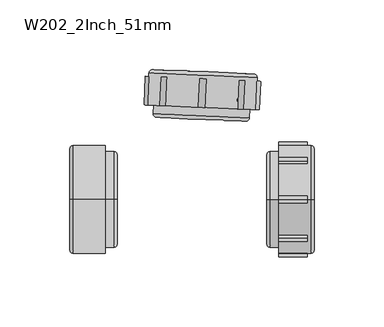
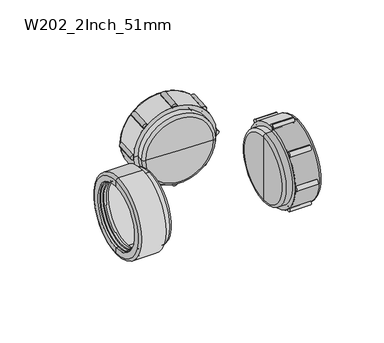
"""IFC4 building model written with IfcOpenShell, lengths in millimetres: pipe fitting geometry, Durapipe_PipeFitting_VulcatheneMechanical_92.5EqualSweepTee_W20 : W202_2Inch_51mm."""

from ifc_helpers import new_model, si_unit, point, frame, frame_2d, origin, place, context, project, spatial, polyline, circle_curve, ellipse_curve, trimmed, segment, composite_curve, outline, extrude, source, transform, mapped, element, save
from ifc_brep_helpers import plane_surface, cylinder_surface, revolved_surface, advanced_brep


def w202_2inch_51mm_4147cbe4(model_context):
    return source(origin(), model_context, "Body", "SolidModel", [
        advanced_brep(
        [(-18.9253574, 90.1480892, 22.839549), (26.7102643, 88.155595, -22.839549), (25.15611, 88.2234508, -21.2839141), (-17.3712031, 90.0802334, 21.2839141), (-18.6751223, 84.5318287, 22.3445743), (25.9714921, 82.5825154, -22.3445743), (-18.3123292, 83.114655, 21.9203102), (25.4865647, 81.202354, -21.9203102), (25.5476319, 82.6010215, -21.9203102), (-18.251262, 84.5133225, 21.9203102), (-17.3233219, 83.071474, 20.9303607), (24.4975574, 81.245535, -20.9303607), (-17.2229973, 85.369285, 20.9303607), (24.597882, 83.5433459, -20.9303607), (-16.9404238, 85.3569475, 20.647518), (24.3153085, 83.5556834, -20.647518), (-17.4802515, 87.5826128, 21.2839141), (25.0470616, 85.7258302, -21.2839141), (24.4112712, 85.7535894, -20.647518), (-16.8444611, 87.5548536, 20.647518)],
        [
            (0, 1, circle_curve(frame((3.8924535, 89.1518421, 0.0), z_axis=(0.04361938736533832, 0.9990482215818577, 0.0), x_axis=(0.7064337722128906, -0.030843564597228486, -0.7071067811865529)), 32.3)),
            (1, 2),
            (2, 3, circle_curve(frame((3.8924535, 89.1518421, 0.0), z_axis=(-0.04361938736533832, -0.9990482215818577, 0.0), x_axis=(0.7064337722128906, -0.030843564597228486, -0.7071067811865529)), 30.1)),
            (3, 0),
            (1, 0, circle_curve(frame((3.8924535, 89.1518421, 0.0), z_axis=(0.04361938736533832, 0.9990482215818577, 0.0), x_axis=(0.7064337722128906, -0.030843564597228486, -0.7071067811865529)), 32.3)),
            (3, 2, circle_curve(frame((3.8924535, 89.1518421, 0.0), z_axis=(-0.04361938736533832, -0.9990482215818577, 0.0), x_axis=(0.7064337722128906, -0.030843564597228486, -0.7071067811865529)), 30.1)),
            (4, 5, circle_curve(frame((3.6481849, 83.557172, 0.0), z_axis=(0.04361938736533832, 0.9990482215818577, 0.0), x_axis=(0.7064337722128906, -0.030843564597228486, -0.7071067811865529)), 31.6)),
            (5, 1),
            (0, 4),
            (5, 4, circle_curve(frame((3.6481849, 83.557172, 0.0), z_axis=(0.04361938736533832, 0.9990482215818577, 0.0), x_axis=(0.7064337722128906, -0.030843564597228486, -0.7071067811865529)), 31.6)),
            (6, 7, circle_curve(frame((3.5871178, 82.1585045, 0.0), z_axis=(0.04361938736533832, 0.9990482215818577, 0.0), x_axis=(0.7064337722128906, -0.030843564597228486, -0.7071067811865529)), 31.0)),
            (7, 8),
            (8, 9, circle_curve(frame((3.6481849, 83.557172, 0.0), z_axis=(-0.04361938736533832, -0.9990482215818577, 0.0), x_axis=(0.7064337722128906, -0.030843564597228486, -0.7071067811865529)), 31.0)),
            (9, 6),
            (7, 6, circle_curve(frame((3.5871178, 82.1585045, 0.0), z_axis=(0.04361938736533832, 0.9990482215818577, 0.0), x_axis=(0.7064337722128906, -0.030843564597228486, -0.7071067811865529)), 31.0)),
            (9, 8, circle_curve(frame((3.6481849, 83.557172, 0.0), z_axis=(-0.04361938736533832, -0.9990482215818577, 0.0), x_axis=(0.7064337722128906, -0.030843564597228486, -0.7071067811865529)), 31.0)),
            (6, 10),
            (10, 11, circle_curve(frame((3.5871178, 82.1585045, 0.0), z_axis=(0.04361938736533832, 0.9990482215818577, 0.0), x_axis=(0.7064337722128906, -0.030843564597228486, -0.7071067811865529)), 29.6)),
            (11, 7),
            (11, 10, circle_curve(frame((3.5871178, 82.1585045, 0.0), z_axis=(0.04361938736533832, 0.9990482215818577, 0.0), x_axis=(0.7064337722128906, -0.030843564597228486, -0.7071067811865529)), 29.6)),
            (10, 12),
            (12, 13, circle_curve(frame((3.6874424, 84.4563154, 0.0), z_axis=(0.04361938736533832, 0.9990482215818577, 0.0), x_axis=(0.7064337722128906, -0.030843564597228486, -0.7071067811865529)), 29.6)),
            (13, 11),
            (13, 12, circle_curve(frame((3.6874424, 84.4563154, 0.0), z_axis=(0.04361938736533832, 0.9990482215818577, 0.0), x_axis=(0.7064337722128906, -0.030843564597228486, -0.7071067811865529)), 29.6)),
            (12, 14),
            (14, 15, circle_curve(frame((3.6874424, 84.4563154, 0.0), z_axis=(0.04361938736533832, 0.9990482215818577, 0.0), x_axis=(0.7064337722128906, -0.030843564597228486, -0.7071067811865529)), 29.2)),
            (15, 13),
            (15, 14, circle_curve(frame((3.6874424, 84.4563154, 0.0), z_axis=(0.04361938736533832, 0.9990482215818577, 0.0), x_axis=(0.7064337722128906, -0.030843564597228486, -0.7071067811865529)), 29.2)),
            (16, 17, circle_curve(frame((3.783405, 86.6542215, 0.0), z_axis=(0.04361938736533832, 0.9990482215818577, 0.0), x_axis=(0.7064337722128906, -0.030843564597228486, -0.7071067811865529)), 30.1)),
            (17, 18),
            (18, 19, circle_curve(frame((3.783405, 86.6542215, 0.0), z_axis=(-0.04361938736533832, -0.9990482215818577, 0.0), x_axis=(0.7064337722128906, -0.030843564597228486, -0.7071067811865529)), 29.2)),
            (19, 16),
            (17, 16, circle_curve(frame((3.783405, 86.6542215, 0.0), z_axis=(0.04361938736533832, 0.9990482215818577, 0.0), x_axis=(0.7064337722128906, -0.030843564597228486, -0.7071067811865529)), 30.1)),
            (19, 18, circle_curve(frame((3.783405, 86.6542215, 0.0), z_axis=(-0.04361938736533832, -0.9990482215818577, 0.0), x_axis=(0.7064337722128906, -0.030843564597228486, -0.7071067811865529)), 29.2)),
            (2, 17),
            (16, 3),
            (14, 19),
            (18, 15),
            (4, 9),
            (8, 5),
        ],
        [
            plane_surface(frame((3.8924535, 89.1518421, 0.0), z_axis=(0.043619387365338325, 0.9990482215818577, 0.0), x_axis=(0.7064337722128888, -0.03084356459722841, -0.7071067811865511))),
            revolved_surface(polyline([(26.7102643, 88.155595, -22.839549), (25.9714921, 82.5825154, -22.3445743)]), (4.1105504, 94.1470832, 0.0), (-0.04361938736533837, -0.999048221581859, 0.0)),
            cylinder_surface(frame((3.496797, 80.0898196, 0.0), z_axis=(-0.04361938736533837, -0.999048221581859, 0.0), x_axis=(0.7064337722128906, -0.030843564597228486, -0.7071067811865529)), 31.0),
            plane_surface(frame((3.5871178, 82.1585045, 0.0), z_axis=(-0.043619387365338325, -0.9990482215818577, 0.0), x_axis=(0.7064337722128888, -0.03084356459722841, -0.7071067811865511))),
            revolved_surface(polyline([(24.497557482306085, 81.24553497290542, -20.930360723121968), (24.597882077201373, 83.54334597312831, -20.930360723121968)]), (3.4347557, 78.6688381, 0.0), (-0.04361938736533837, -0.999048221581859, 0.0)),
            plane_surface(frame((3.6874424, 84.4563154, 0.0), z_axis=(-0.043619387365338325, -0.9990482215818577, 0.0), x_axis=(0.7064337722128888, -0.03084356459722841, -0.7071067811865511))),
            plane_surface(frame((3.783405, 86.6542215, 0.0), z_axis=(0.043619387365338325, 0.9990482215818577, 0.0), x_axis=(0.7064337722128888, -0.03084356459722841, -0.7071067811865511))),
            revolved_surface(polyline([(25.047061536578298, 85.72583020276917, -21.283914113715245), (25.15611000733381, 88.22345081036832, -21.283914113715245)]), (4.1105504, 94.1470832, 0.0), (-0.04361938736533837, -0.999048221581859, 0.0)),
            revolved_surface(polyline([(24.315308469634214, 83.55568331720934, -20.647518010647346), (24.411271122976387, 85.75358943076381, -20.647518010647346)]), (3.9607698, 90.7165439, 0.0), (-0.04361938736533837, -0.999048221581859, 0.0)),
            plane_surface(frame((3.6481849, 83.557172, 0.0), z_axis=(-0.043619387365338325, -0.9990482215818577, 0.0), x_axis=(0.7064337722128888, -0.03084356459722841, -0.7071067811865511))),
        ],
        [
            (0, [[1, 2, 3, 4]]),
            (0, [[-2, 5, -4, 6]]),
            (1, [[7, 8, -1, 9]]),
            (1, [[10, -9, -5, -8]]),
            (2, [[11, 12, 13, 14]]),
            (2, [[-12, 15, -14, 16]]),
            (3, [[-11, 17, 18, 19]]),
            (3, [[-15, -19, 20, -17]]),
            (4, [[21, 22, 23, -18]]),
            (4, [[-21, -20, -23, 24]]),
            (5, [[-22, 25, 26, 27]]),
            (5, [[-24, -27, 28, -25]]),
            (6, [[29, 30, 31, 32]]),
            (6, [[33, -32, 34, -30]]),
            (7, [[-3, 35, -29, 36]]),
            (7, [[-6, -36, -33, -35]]),
            (8, [[37, -31, 38, -26]]),
            (8, [[-37, -28, -38, -34]]),
            (9, [[-7, 39, -13, 40]]),
            (9, [[-10, -40, -16, -39]]),
        ],
    ),
        advanced_brep(
        [(-35.8782254, 67.7662604, 0.0), (41.6479166, 64.3813959, 0.0), (42.6468006, 87.2596002, 0.0), (-34.8793414, 90.6444647, 0.0), (-31.582318, 67.578697, 0.0), (37.3520093, 64.5689593, 0.0), (-32.2726724, 93.0330368, 0.0), (40.2582285, 89.8662692, 0.0), (34.9632729, 90.097452, 0.0), (-26.9777168, 92.801854, 0.0), (-29.0761378, 90.5912819, 0.0), (36.8610448, 87.7124023, 0.0), (35.6702355, 60.4383859, 0.0), (-30.2669471, 63.3172654, 0.0), (-27.0780414, 90.5040431, 0.0), (34.8629484, 87.7996411, 0.0), (-31.8440343, 61.5844077, 0.0), (37.090293, 58.57467, 0.0), (-29.4554622, 58.9777387, 0.0), (34.4836239, 56.1860979, 0.0), (2.5140808, 57.5819183, 0.0), (2.7016442, 61.8778256, 0.0)],
        [
            (0, 1, circle_curve(frame((2.8848456, 66.0738282, 0.0), z_axis=(0.04361938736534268, 0.9990482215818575, 0.0), x_axis=(0.9990482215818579, -0.0436193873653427, 0.0)), 38.8)),
            (1, 2),
            (2, 3, circle_curve(frame((3.8837296, 88.9520324, 0.0), z_axis=(-0.04361938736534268, -0.9990482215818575, 0.0), x_axis=(0.9990482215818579, -0.0436193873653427, 0.0)), 38.8)),
            (3, 0),
            (1, 0, circle_curve(frame((2.8848456, 66.0738282, 0.0), z_axis=(0.04361938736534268, 0.9990482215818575, 0.0), x_axis=(0.9990482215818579, -0.0436193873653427, 0.0)), 38.8)),
            (3, 2, circle_curve(frame((3.8837296, 88.9520324, 0.0), z_axis=(-0.04361938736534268, -0.9990482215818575, 0.0), x_axis=(0.9990482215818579, -0.0436193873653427, 0.0)), 38.8)),
            (4, 5, circle_curve(frame((2.8848456, 66.0738282, 0.0), z_axis=(0.04361938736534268, 0.9990482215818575, 0.0), x_axis=(0.9990482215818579, -0.0436193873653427, 0.0)), 34.5)),
            (5, 1),
            (0, 4),
            (5, 4, circle_curve(frame((2.8848456, 66.0738282, 0.0), z_axis=(0.04361938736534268, 0.9990482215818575, 0.0), x_axis=(0.9990482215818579, -0.0436193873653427, 0.0)), 34.5)),
            (6, 7, circle_curve(frame((3.9927781, 91.449653, 0.0), z_axis=(0.04361938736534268, 0.9990482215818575, 0.0), x_axis=(0.9990482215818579, -0.0436193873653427, 0.0)), 36.3)),
            (7, 8),
            (8, 9, circle_curve(frame((3.9927781, 91.449653, 0.0), z_axis=(-0.04361938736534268, -0.9990482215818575, 0.0), x_axis=(0.9990482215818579, -0.0436193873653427, 0.0)), 31.0)),
            (9, 6),
            (7, 6, circle_curve(frame((3.9927781, 91.449653, 0.0), z_axis=(0.04361938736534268, 0.9990482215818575, 0.0), x_axis=(0.9990482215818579, -0.0436193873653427, 0.0)), 36.3)),
            (9, 8, circle_curve(frame((3.9927781, 91.449653, 0.0), z_axis=(-0.04361938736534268, -0.9990482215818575, 0.0), x_axis=(0.9990482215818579, -0.0436193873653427, 0.0)), 31.0)),
            (2, 7, circle_curve(frame((40.1491801, 87.3686487, 0.0), z_axis=(0.0, 0.0, 1.0000000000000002), x_axis=(0.04361938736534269, 0.9990482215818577, 0.0)), 2.5)),
            (6, 3, circle_curve(frame((-32.3817208, 90.5354162, 0.0), z_axis=(0.0, 0.0, 1.0000000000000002), x_axis=(0.04361938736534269, 0.9990482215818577, 0.0)), 2.5)),
            (10, 11, circle_curve(frame((3.8924535, 89.1518421, 0.0), z_axis=(0.04361938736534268, 0.9990482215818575, 0.0), x_axis=(0.9990482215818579, -0.0436193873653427, 0.0)), 33.0)),
            (11, 12),
            (12, 13, circle_curve(frame((2.7016442, 61.8778256, 0.0), z_axis=(-0.04361938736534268, -0.9990482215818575, 0.0), x_axis=(0.9990482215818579, -0.0436193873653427, 0.0)), 33.0)),
            (13, 10),
            (11, 10, circle_curve(frame((3.8924535, 89.1518421, 0.0), z_axis=(0.04361938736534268, 0.9990482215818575, 0.0), x_axis=(0.9990482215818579, -0.0436193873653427, 0.0)), 33.0)),
            (13, 12, circle_curve(frame((2.7016442, 61.8778256, 0.0), z_axis=(-0.04361938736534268, -0.9990482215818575, 0.0), x_axis=(0.9990482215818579, -0.0436193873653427, 0.0)), 33.0)),
            (14, 15, circle_curve(frame((3.8924535, 89.1518421, 0.0), z_axis=(0.04361938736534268, 0.9990482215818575, 0.0), x_axis=(0.9990482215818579, -0.0436193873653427, 0.0)), 31.0)),
            (15, 11),
            (10, 14),
            (15, 14, circle_curve(frame((3.8924535, 89.1518421, 0.0), z_axis=(0.04361938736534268, 0.9990482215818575, 0.0), x_axis=(0.9990482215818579, -0.0436193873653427, 0.0)), 31.0)),
            (8, 15),
            (14, 9),
            (16, 17, circle_curve(frame((2.6231293, 60.0795388, 0.0), z_axis=(0.04361938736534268, 0.9990482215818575, 0.0), x_axis=(0.9990482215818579, -0.0436193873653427, 0.0)), 34.5)),
            (17, 5),
            (4, 16),
            (17, 16, circle_curve(frame((2.6231293, 60.0795388, 0.0), z_axis=(0.04361938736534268, 0.9990482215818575, 0.0), x_axis=(0.9990482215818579, -0.0436193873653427, 0.0)), 34.5)),
            (18, 19, circle_curve(frame((2.5140808, 57.5819183, 0.0), z_axis=(0.04361938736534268, 0.9990482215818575, 0.0), x_axis=(0.9990482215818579, -0.0436193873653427, 0.0)), 32.0)),
            (19, 17, circle_curve(frame((34.5926724, 58.6837184, 0.0), z_axis=(0.0, 0.0, 1.0000000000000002), x_axis=(0.04361938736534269, 0.9990482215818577, 0.0)), 2.5)),
            (16, 18, circle_curve(frame((-29.3464138, 61.4753592, 0.0), z_axis=(0.0, 0.0, 1.0000000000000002), x_axis=(0.04361938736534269, 0.9990482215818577, 0.0)), 2.5)),
            (19, 18, circle_curve(frame((2.5140808, 57.5819183, 0.0), z_axis=(0.04361938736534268, 0.9990482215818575, 0.0), x_axis=(0.9990482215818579, -0.0436193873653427, 0.0)), 32.0)),
            (20, 19),
            (18, 20),
            (12, 21),
            (21, 13),
        ],
        [
            cylinder_surface(frame((72.0739972, 1650.7659339, 0.0), z_axis=(-0.04361938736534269, -0.9990482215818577, 0.0), x_axis=(0.9990482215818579, -0.0436193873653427, 0.0)), 38.8),
            plane_surface(frame((2.8848456, 66.0738282, 0.0), z_axis=(-0.04361938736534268, -0.9990482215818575, 0.0), x_axis=(0.9990482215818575, -0.04361938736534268, 0.0))),
            plane_surface(frame((3.9927781, 91.449653, 0.0), z_axis=(0.04361938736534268, 0.9990482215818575, 0.0), x_axis=(0.9990482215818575, -0.04361938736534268, 0.0))),
            revolved_surface(trimmed(ellipse_curve(frame((40.1491801, 87.3686487, 0.0), z_axis=(0.0, 0.0, -1.0000000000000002), x_axis=(0.04361938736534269, 0.9990482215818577, 0.0)), 2.5, 2.5), [point((40.2582285, 89.8662692, 0.0))], [point((42.6468006, 87.2596002, 0.0))], True, "CARTESIAN"), (72.0739972, 1650.7659339, 0.0), (-0.04361938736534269, -0.9990482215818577, 0.0)),
            revolved_surface(polyline([(35.670235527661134, 60.43838581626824, 0.0), (36.861044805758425, 87.71240233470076, 0.0)]), (72.0739972, 1650.7659339, 0.0), (-0.04361938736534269, -0.9990482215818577, 0.0)),
            plane_surface(frame((3.8924535, 89.1518421, 0.0), z_axis=(-0.04361938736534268, -0.9990482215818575, 0.0), x_axis=(0.9990482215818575, -0.04361938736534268, 0.0))),
            revolved_surface(polyline([(34.8629483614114, 87.79964108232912, 0.0), (34.96327295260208, 90.09745199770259, 0.0)]), (72.0739972, 1650.7659339, 0.0), (-0.04361938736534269, -0.9990482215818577, 0.0)),
            cylinder_surface(frame((72.0739972, 1650.7659339, 0.0), z_axis=(-0.04361938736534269, -0.9990482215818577, 0.0), x_axis=(0.9990482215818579, -0.0436193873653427, 0.0)), 34.5),
            revolved_surface(trimmed(ellipse_curve(frame((34.5926724, 58.6837184, 0.0), z_axis=(0.0, 0.0, -1.0000000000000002), x_axis=(0.04361938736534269, 0.9990482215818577, 0.0)), 2.5, 2.5), [point((37.090293, 58.57467, 0.0))], [point((34.4836239, 56.1860979, 0.0))], True, "CARTESIAN"), (72.0739972, 1650.7659339, 0.0), (-0.04361938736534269, -0.9990482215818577, 0.0)),
            plane_surface(frame((2.5140808, 57.5819183, 0.0), z_axis=(-0.04361938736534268, -0.9990482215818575, 0.0), x_axis=(0.9990482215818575, -0.04361938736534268, 0.0))),
            plane_surface(frame((2.7016442, 61.8778256, 0.0), z_axis=(0.04361938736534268, 0.9990482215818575, 0.0), x_axis=(0.9990482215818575, -0.04361938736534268, 0.0))),
        ],
        [
            (0, [[1, 2, 3, 4]]),
            (0, [[5, -4, 6, -2]]),
            (1, [[7, 8, -1, 9]]),
            (1, [[10, -9, -5, -8]]),
            (2, [[11, 12, 13, 14]]),
            (2, [[15, -14, 16, -12]]),
            (3, [[-3, 17, -11, 18]]),
            (3, [[-6, -18, -15, -17]]),
            (4, [[19, 20, 21, 22]]),
            (4, [[23, -22, 24, -20]]),
            (5, [[25, 26, -19, 27]]),
            (5, [[28, -27, -23, -26]]),
            (6, [[-13, 29, -25, 30]]),
            (6, [[-16, -30, -28, -29]]),
            (7, [[31, 32, -7, 33]]),
            (7, [[34, -33, -10, -32]]),
            (8, [[35, 36, -31, 37]]),
            (8, [[38, -37, -34, -36]]),
            (9, [[39, -35, 40]]),
            (9, [[-40, -38, -39]]),
            (10, [[-21, 41, 42]]),
            (10, [[-24, -42, -41]]),
        ],
    ),
        extrude(outline(composite_curve([segment(trimmed(circle_curve(frame_2d((0.0, -2.5)), 2.5), [point((0.0, -5.0))], [point((0.0, 0.0))], False, "CARTESIAN"), True, "CONTINUOUS"), segment(trimmed(circle_curve(frame_2d((0.0, -2.5)), 2.5), [point((0.0, 0.0))], [point((0.0, -5.0))], False, "CARTESIAN"), True, "CONTINUOUS")], self_intersect=False)), frame((5.3824662, 65.9647797, -38.8), z_axis=(0.04361938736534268, 0.9990482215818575, 0.0), x_axis=(0.0, 0.0, 1.0)), (0.0, 0.0, 1.0), 20.4),
        extrude(outline(composite_curve([segment(trimmed(circle_curve(frame_2d((11.3642569, 24.9357431)), 2.5), [point((11.3642569, 22.4357431))], [point((11.3642569, 27.4357431))], False, "CARTESIAN"), True, "CONTINUOUS"), segment(trimmed(circle_curve(frame_2d((11.3642569, 24.9357431)), 2.5), [point((11.3642569, 27.4357431))], [point((11.3642569, 22.4357431))], False, "CARTESIAN"), True, "CONTINUOUS")], self_intersect=False)), frame((5.3824662, 65.9647797, -38.8), z_axis=(0.04361938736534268, 0.9990482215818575, 0.0), x_axis=(0.0, 0.0, 1.0)), (0.0, 0.0, 1.0), 20.4),
        extrude(outline(composite_curve([segment(trimmed(circle_curve(frame_2d((38.8, 36.3)), 2.5), [point((38.8, 33.8))], [point((38.8, 38.8))], False, "CARTESIAN"), True, "CONTINUOUS"), segment(trimmed(circle_curve(frame_2d((38.8, 36.3)), 2.5), [point((38.8, 38.8))], [point((38.8, 33.8))], False, "CARTESIAN"), True, "CONTINUOUS")], self_intersect=False)), frame((5.3824662, 65.9647797, -38.8), z_axis=(0.04361938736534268, 0.9990482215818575, 0.0), x_axis=(0.0, 0.0, 1.0)), (0.0, 0.0, 1.0), 20.4),
        extrude(outline(composite_curve([segment(trimmed(circle_curve(frame_2d((66.2357431, 24.9357431)), 2.5), [point((66.2357431, 22.4357431))], [point((66.2357431, 27.4357431))], False, "CARTESIAN"), True, "CONTINUOUS"), segment(trimmed(circle_curve(frame_2d((66.2357431, 24.9357431)), 2.5), [point((66.2357431, 27.4357431))], [point((66.2357431, 22.4357431))], False, "CARTESIAN"), True, "CONTINUOUS")], self_intersect=False)), frame((5.3824662, 65.9647797, -38.8), z_axis=(0.04361938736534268, 0.9990482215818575, 0.0), x_axis=(0.0, 0.0, 1.0)), (0.0, 0.0, 1.0), 20.4),
        extrude(outline(composite_curve([segment(trimmed(circle_curve(frame_2d((77.6, -2.5)), 2.5), [point((77.6, -5.0))], [point((77.6, 0.0))], False, "CARTESIAN"), True, "CONTINUOUS"), segment(trimmed(circle_curve(frame_2d((77.6, -2.5)), 2.5), [point((77.6, 0.0))], [point((77.6, -5.0))], False, "CARTESIAN"), True, "CONTINUOUS")], self_intersect=False)), frame((5.3824662, 65.9647797, -38.8), z_axis=(0.04361938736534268, 0.9990482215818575, 0.0), x_axis=(0.0, 0.0, 1.0)), (0.0, 0.0, 1.0), 20.4),
        extrude(outline(composite_curve([segment(trimmed(circle_curve(frame_2d((66.2357431, -29.9357431)), 2.5), [point((66.2357431, -32.4357431))], [point((66.2357431, -27.4357431))], False, "CARTESIAN"), True, "CONTINUOUS"), segment(trimmed(circle_curve(frame_2d((66.2357431, -29.9357431)), 2.5), [point((66.2357431, -27.4357431))], [point((66.2357431, -32.4357431))], False, "CARTESIAN"), True, "CONTINUOUS")], self_intersect=False)), frame((5.3824662, 65.9647797, -38.8), z_axis=(0.04361938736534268, 0.9990482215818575, 0.0), x_axis=(0.0, 0.0, 1.0)), (0.0, 0.0, 1.0), 20.4),
        extrude(outline(composite_curve([segment(trimmed(circle_curve(frame_2d((38.8, -41.3)), 2.5), [point((38.8, -43.8))], [point((38.8, -38.8))], False, "CARTESIAN"), True, "CONTINUOUS"), segment(trimmed(circle_curve(frame_2d((38.8, -41.3)), 2.5), [point((38.8, -38.8))], [point((38.8, -43.8))], False, "CARTESIAN"), True, "CONTINUOUS")], self_intersect=False)), frame((5.3824662, 65.9647797, -38.8), z_axis=(0.04361938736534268, 0.9990482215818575, 0.0), x_axis=(0.0, 0.0, 1.0)), (0.0, 0.0, 1.0), 20.4),
        extrude(outline(composite_curve([segment(trimmed(circle_curve(frame_2d((11.3642569, -29.9357431)), 2.5), [point((11.3642569, -32.4357431))], [point((11.3642569, -27.4357431))], False, "CARTESIAN"), True, "CONTINUOUS"), segment(trimmed(circle_curve(frame_2d((11.3642569, -29.9357431)), 2.5), [point((11.3642569, -27.4357431))], [point((11.3642569, -32.4357431))], False, "CARTESIAN"), True, "CONTINUOUS")], self_intersect=False)), frame((5.3824662, 65.9647797, -38.8), z_axis=(0.04361938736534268, 0.9990482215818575, 0.0), x_axis=(0.0, 0.0, 1.0)), (0.0, 0.0, 1.0), 20.4),
        advanced_brep(
        [(81.1632243, 22.839549, -22.839549), (81.1632243, -22.839549, 22.839549), (81.1632243, -21.2839141, 21.2839141), (81.1632243, 21.2839141, -21.2839141), (75.5632243, 22.3445743, -22.3445743), (75.5632243, -22.3445743, 22.3445743), (74.1632243, 21.9203102, -21.9203102), (74.1632243, -21.9203102, 21.9203102), (75.5632243, -21.9203102, 21.9203102), (75.5632243, 21.9203102, -21.9203102), (74.1632243, 20.9303607, -20.9303607), (74.1632243, -20.9303607, 20.9303607), (76.4632243, 20.9303607, -20.9303607), (76.4632243, -20.9303607, 20.9303607), (76.4632243, 20.647518, -20.647518), (76.4632243, -20.647518, 20.647518), (78.6632243, 21.2839141, -21.2839141), (78.6632243, -21.2839141, 21.2839141), (78.6632243, -20.647518, 20.647518), (78.6632243, 20.647518, -20.647518)],
        [
            (0, 1, circle_curve(frame((81.1632243, 0.0, 0.0), z_axis=(1.0, 0.0, 0.0), x_axis=(0.0, -0.7071067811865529, 0.7071067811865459)), 32.3)),
            (1, 2),
            (2, 3, circle_curve(frame((81.1632243, 0.0, 0.0), z_axis=(-1.0, 0.0, 0.0), x_axis=(0.0, -0.7071067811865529, 0.7071067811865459)), 30.1)),
            (3, 0),
            (1, 0, circle_curve(frame((81.1632243, 0.0, 0.0), z_axis=(1.0, 0.0, 0.0), x_axis=(0.0, -0.7071067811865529, 0.7071067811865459)), 32.3)),
            (3, 2, circle_curve(frame((81.1632243, 0.0, 0.0), z_axis=(-1.0, 0.0, 0.0), x_axis=(0.0, -0.7071067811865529, 0.7071067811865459)), 30.1)),
            (4, 5, circle_curve(frame((75.5632243, 0.0, 0.0), z_axis=(1.0, 0.0, 0.0), x_axis=(0.0, -0.7071067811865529, 0.7071067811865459)), 31.6)),
            (5, 1),
            (0, 4),
            (5, 4, circle_curve(frame((75.5632243, 0.0, 0.0), z_axis=(1.0, 0.0, 0.0), x_axis=(0.0, -0.7071067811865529, 0.7071067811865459)), 31.6)),
            (6, 7, circle_curve(frame((74.1632243, 0.0, 0.0), z_axis=(1.0, 0.0, 0.0), x_axis=(0.0, -0.7071067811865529, 0.7071067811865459)), 31.0)),
            (7, 8),
            (8, 9, circle_curve(frame((75.5632243, 0.0, 0.0), z_axis=(-1.0, 0.0, 0.0), x_axis=(0.0, -0.7071067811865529, 0.7071067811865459)), 31.0)),
            (9, 6),
            (7, 6, circle_curve(frame((74.1632243, 0.0, 0.0), z_axis=(1.0, 0.0, 0.0), x_axis=(0.0, -0.7071067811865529, 0.7071067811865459)), 31.0)),
            (9, 8, circle_curve(frame((75.5632243, 0.0, 0.0), z_axis=(-1.0, 0.0, 0.0), x_axis=(0.0, -0.7071067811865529, 0.7071067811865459)), 31.0)),
            (6, 10),
            (10, 11, circle_curve(frame((74.1632243, 0.0, 0.0), z_axis=(1.0, 0.0, 0.0), x_axis=(0.0, -0.7071067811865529, 0.7071067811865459)), 29.6)),
            (11, 7),
            (11, 10, circle_curve(frame((74.1632243, 0.0, 0.0), z_axis=(1.0, 0.0, 0.0), x_axis=(0.0, -0.7071067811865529, 0.7071067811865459)), 29.6)),
            (10, 12),
            (12, 13, circle_curve(frame((76.4632243, 0.0, 0.0), z_axis=(1.0, 0.0, 0.0), x_axis=(0.0, -0.7071067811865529, 0.7071067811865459)), 29.6)),
            (13, 11),
            (13, 12, circle_curve(frame((76.4632243, 0.0, 0.0), z_axis=(1.0, 0.0, 0.0), x_axis=(0.0, -0.7071067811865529, 0.7071067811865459)), 29.6)),
            (12, 14),
            (14, 15, circle_curve(frame((76.4632243, 0.0, 0.0), z_axis=(1.0, 0.0, 0.0), x_axis=(0.0, -0.7071067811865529, 0.7071067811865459)), 29.2)),
            (15, 13),
            (15, 14, circle_curve(frame((76.4632243, 0.0, 0.0), z_axis=(1.0, 0.0, 0.0), x_axis=(0.0, -0.7071067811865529, 0.7071067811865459)), 29.2)),
            (16, 17, circle_curve(frame((78.6632243, 0.0, 0.0), z_axis=(1.0, 0.0, 0.0), x_axis=(0.0, -0.7071067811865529, 0.7071067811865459)), 30.1)),
            (17, 18),
            (18, 19, circle_curve(frame((78.6632243, 0.0, 0.0), z_axis=(-1.0, 0.0, 0.0), x_axis=(0.0, -0.7071067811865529, 0.7071067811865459)), 29.2)),
            (19, 16),
            (17, 16, circle_curve(frame((78.6632243, 0.0, 0.0), z_axis=(1.0, 0.0, 0.0), x_axis=(0.0, -0.7071067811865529, 0.7071067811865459)), 30.1)),
            (19, 18, circle_curve(frame((78.6632243, 0.0, 0.0), z_axis=(-1.0, 0.0, 0.0), x_axis=(0.0, -0.7071067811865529, 0.7071067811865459)), 29.2)),
            (2, 17),
            (16, 3),
            (14, 19),
            (18, 15),
            (4, 9),
            (8, 5),
        ],
        [
            plane_surface(frame((81.1632243, 0.0, 0.0), z_axis=(1.0, 0.0, 0.0), x_axis=(0.0, -0.707106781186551, 0.707106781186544))),
            revolved_surface(polyline([(81.1632243, -22.839549, 22.839549), (75.5632243, -22.3445743, 22.3445743)]), (86.1632243, 0.0, 0.0), (-1.0000000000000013, 0.0, 0.0)),
            cylinder_surface(frame((72.0925686, 0.0, 0.0), z_axis=(-1.0000000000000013, 0.0, 0.0), x_axis=(0.0, -0.7071067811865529, 0.7071067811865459)), 31.0),
            plane_surface(frame((74.1632243, 0.0, 0.0), z_axis=(-1.0, 0.0, 0.0), x_axis=(0.0, -0.707106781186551, 0.707106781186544))),
            revolved_surface(polyline([(74.16322430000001, -20.930360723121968, 20.93036072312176), (76.46322430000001, -20.930360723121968, 20.93036072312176)]), (70.6702333, 0.0, 0.0), (-1.0000000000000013, 0.0, 0.0)),
            plane_surface(frame((76.4632243, 0.0, 0.0), z_axis=(-1.0, 0.0, 0.0), x_axis=(0.0, -0.707106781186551, 0.707106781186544))),
            plane_surface(frame((78.6632243, 0.0, 0.0), z_axis=(1.0, 0.0, 0.0), x_axis=(0.0, -0.707106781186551, 0.707106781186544))),
            revolved_surface(polyline([(78.66322429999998, -21.283914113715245, 21.28391411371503), (81.16322429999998, -21.283914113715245, 21.28391411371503)]), (86.1632243, 0.0, 0.0), (-1.0000000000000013, 0.0, 0.0)),
            revolved_surface(polyline([(76.46322429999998, -20.647518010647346, 20.64751801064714), (78.66322429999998, -20.647518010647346, 20.64751801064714)]), (82.7294167, 0.0, 0.0), (-1.0000000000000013, 0.0, 0.0)),
            plane_surface(frame((75.5632243, 0.0, 0.0), z_axis=(-1.0, 0.0, 0.0), x_axis=(0.0, -0.707106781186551, 0.707106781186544))),
        ],
        [
            (0, [[1, 2, 3, 4]]),
            (0, [[-2, 5, -4, 6]]),
            (1, [[7, 8, -1, 9]]),
            (1, [[10, -9, -5, -8]]),
            (2, [[11, 12, 13, 14]]),
            (2, [[-12, 15, -14, 16]]),
            (3, [[-11, 17, 18, 19]]),
            (3, [[-15, -19, 20, -17]]),
            (4, [[21, 22, 23, -18]]),
            (4, [[-21, -20, -23, 24]]),
            (5, [[-22, 25, 26, 27]]),
            (5, [[-24, -27, 28, -25]]),
            (6, [[29, 30, 31, 32]]),
            (6, [[33, -32, 34, -30]]),
            (7, [[-3, 35, -29, 36]]),
            (7, [[-6, -36, -33, -35]]),
            (8, [[37, -31, 38, -26]]),
            (8, [[-37, -28, -38, -34]]),
            (9, [[-7, 39, -13, 40]]),
            (9, [[-10, -40, -16, -39]]),
        ],
    ),
        advanced_brep(
        [(58.0632243, 0.0, -38.8), (58.0632243, 0.0, 38.8), (80.9632243, 0.0, 38.8), (80.9632243, 0.0, -38.8), (58.0632243, 0.0, -34.5), (58.0632243, 0.0, 34.5), (83.4632243, 0.0, -36.3), (83.4632243, 0.0, 36.3), (83.4632243, 0.0, 31.0), (83.4632243, 0.0, -31.0), (81.1632243, 0.0, -33.0), (81.1632243, 0.0, 33.0), (53.8632243, 0.0, 33.0), (53.8632243, 0.0, -33.0), (81.1632243, 0.0, -31.0), (81.1632243, 0.0, 31.0), (52.0632243, 0.0, -34.5), (52.0632243, 0.0, 34.5), (49.5632243, 0.0, -32.0), (49.5632243, 0.0, 32.0), (49.5632243, 0.0, 0.0), (53.8632243, 0.0, 0.0)],
        [
            (0, 1, circle_curve(frame((58.0632243, 0.0, 0.0), z_axis=(1.0, 0.0, 0.0), x_axis=(0.0, 0.0, 1.0000000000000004)), 38.8)),
            (1, 2),
            (2, 3, circle_curve(frame((80.9632243, 0.0, 0.0), z_axis=(-1.0, 0.0, 0.0), x_axis=(0.0, 0.0, 1.0000000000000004)), 38.8)),
            (3, 0),
            (1, 0, circle_curve(frame((58.0632243, 0.0, 0.0), z_axis=(1.0, 0.0, 0.0), x_axis=(0.0, 0.0, 1.0000000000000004)), 38.8)),
            (3, 2, circle_curve(frame((80.9632243, 0.0, 0.0), z_axis=(-1.0, 0.0, 0.0), x_axis=(0.0, 0.0, 1.0000000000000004)), 38.8)),
            (4, 5, circle_curve(frame((58.0632243, 0.0, 0.0), z_axis=(1.0, 0.0, 0.0), x_axis=(0.0, 0.0, 1.0000000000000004)), 34.5)),
            (5, 1),
            (0, 4),
            (5, 4, circle_curve(frame((58.0632243, 0.0, 0.0), z_axis=(1.0, 0.0, 0.0), x_axis=(0.0, 0.0, 1.0000000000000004)), 34.5)),
            (6, 7, circle_curve(frame((83.4632243, 0.0, 0.0), z_axis=(1.0, 0.0, 0.0), x_axis=(0.0, 0.0, 1.0000000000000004)), 36.3)),
            (7, 8),
            (8, 9, circle_curve(frame((83.4632243, 0.0, 0.0), z_axis=(-1.0, 0.0, 0.0), x_axis=(0.0, 0.0, 1.0000000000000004)), 31.0)),
            (9, 6),
            (7, 6, circle_curve(frame((83.4632243, 0.0, 0.0), z_axis=(1.0, 0.0, 0.0), x_axis=(0.0, 0.0, 1.0000000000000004)), 36.3)),
            (9, 8, circle_curve(frame((83.4632243, 0.0, 0.0), z_axis=(-1.0, 0.0, 0.0), x_axis=(0.0, 0.0, 1.0000000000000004)), 31.0)),
            (2, 7, circle_curve(frame((80.9632243, 0.0, 36.3), z_axis=(0.0, 1.0000000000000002, 0.0), x_axis=(1.0000000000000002, 0.0, 0.0)), 2.5)),
            (6, 3, circle_curve(frame((80.9632243, 0.0, -36.3), z_axis=(0.0, 1.0000000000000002, 0.0), x_axis=(1.0000000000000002, 0.0, 0.0)), 2.5)),
            (10, 11, circle_curve(frame((81.1632243, 0.0, 0.0), z_axis=(1.0, 0.0, 0.0), x_axis=(0.0, 0.0, 1.0000000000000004)), 33.0)),
            (11, 12),
            (12, 13, circle_curve(frame((53.8632243, 0.0, 0.0), z_axis=(-1.0, 0.0, 0.0), x_axis=(0.0, 0.0, 1.0000000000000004)), 33.0)),
            (13, 10),
            (11, 10, circle_curve(frame((81.1632243, 0.0, 0.0), z_axis=(1.0, 0.0, 0.0), x_axis=(0.0, 0.0, 1.0000000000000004)), 33.0)),
            (13, 12, circle_curve(frame((53.8632243, 0.0, 0.0), z_axis=(-1.0, 0.0, 0.0), x_axis=(0.0, 0.0, 1.0000000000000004)), 33.0)),
            (14, 15, circle_curve(frame((81.1632243, 0.0, 0.0), z_axis=(1.0, 0.0, 0.0), x_axis=(0.0, 0.0, 1.0000000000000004)), 31.0)),
            (15, 11),
            (10, 14),
            (15, 14, circle_curve(frame((81.1632243, 0.0, 0.0), z_axis=(1.0, 0.0, 0.0), x_axis=(0.0, 0.0, 1.0000000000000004)), 31.0)),
            (8, 15),
            (14, 9),
            (16, 17, circle_curve(frame((52.0632243, 0.0, 0.0), z_axis=(1.0, 0.0, 0.0), x_axis=(0.0, 0.0, 1.0000000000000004)), 34.5)),
            (17, 5),
            (4, 16),
            (17, 16, circle_curve(frame((52.0632243, 0.0, 0.0), z_axis=(1.0, 0.0, 0.0), x_axis=(0.0, 0.0, 1.0000000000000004)), 34.5)),
            (18, 19, circle_curve(frame((49.5632243, 0.0, 0.0), z_axis=(1.0, 0.0, 0.0), x_axis=(0.0, 0.0, 1.0000000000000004)), 32.0)),
            (19, 17, circle_curve(frame((52.0632243, 0.0, 32.0), z_axis=(0.0, 1.0000000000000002, 0.0), x_axis=(1.0000000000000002, 0.0, 0.0)), 2.5)),
            (16, 18, circle_curve(frame((52.0632243, 0.0, -32.0), z_axis=(0.0, 1.0000000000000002, 0.0), x_axis=(1.0000000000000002, 0.0, 0.0)), 2.5)),
            (19, 18, circle_curve(frame((49.5632243, 0.0, 0.0), z_axis=(1.0, 0.0, 0.0), x_axis=(0.0, 0.0, 1.0000000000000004)), 32.0)),
            (20, 19),
            (18, 20),
            (12, 21),
            (21, 13),
        ],
        [
            cylinder_surface(frame((1644.2650427, 0.0, 0.0), z_axis=(-1.0000000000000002, 0.0, 0.0), x_axis=(0.0, 0.0, 1.0000000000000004)), 38.8),
            plane_surface(frame((58.0632243, 0.0, 0.0), z_axis=(-1.0, 0.0, 0.0), x_axis=(0.0, 0.0, 1.0))),
            plane_surface(frame((83.4632243, 0.0, 0.0), z_axis=(1.0, 0.0, 0.0), x_axis=(0.0, 0.0, 1.0))),
            revolved_surface(trimmed(ellipse_curve(frame((80.9632243, 0.0, 36.3), z_axis=(0.0, -1.0000000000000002, 0.0), x_axis=(1.0000000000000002, 0.0, 0.0)), 2.5, 2.5), [point((83.4632243, 0.0, 36.3))], [point((80.9632243, 0.0, 38.8))], True, "CARTESIAN"), (1644.2650427, 0.0, 0.0), (-1.0000000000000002, 0.0, 0.0)),
            revolved_surface(polyline([(53.86322429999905, 0.0, 33.000000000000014), (81.163224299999, 0.0, 33.000000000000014)]), (1644.2650427, 0.0, 0.0), (-1.0000000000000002, 0.0, 0.0)),
            plane_surface(frame((81.1632243, 0.0, 0.0), z_axis=(-1.0, 0.0, 0.0), x_axis=(0.0, 0.0, 1.0))),
            revolved_surface(polyline([(81.163224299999, 0.0, 31.000000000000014), (83.46322429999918, 0.0, 31.000000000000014)]), (1644.2650427, 0.0, 0.0), (-1.0000000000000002, 0.0, 0.0)),
            cylinder_surface(frame((1644.2650427, 0.0, 0.0), z_axis=(-1.0000000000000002, 0.0, 0.0), x_axis=(0.0, 0.0, 1.0000000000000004)), 34.5),
            revolved_surface(trimmed(ellipse_curve(frame((52.0632243, 0.0, 32.0), z_axis=(0.0, -1.0000000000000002, 0.0), x_axis=(1.0000000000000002, 0.0, 0.0)), 2.5, 2.5), [point((52.0632243, 0.0, 34.5))], [point((49.5632243, 0.0, 32.0))], True, "CARTESIAN"), (1644.2650427, 0.0, 0.0), (-1.0000000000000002, 0.0, 0.0)),
            plane_surface(frame((49.5632243, 0.0, 0.0), z_axis=(-1.0, 0.0, 0.0), x_axis=(0.0, 0.0, 1.0))),
            plane_surface(frame((53.8632243, 0.0, 0.0), z_axis=(1.0, 0.0, 0.0), x_axis=(0.0, 0.0, 1.0))),
        ],
        [
            (0, [[1, 2, 3, 4]]),
            (0, [[5, -4, 6, -2]]),
            (1, [[7, 8, -1, 9]]),
            (1, [[10, -9, -5, -8]]),
            (2, [[11, 12, 13, 14]]),
            (2, [[15, -14, 16, -12]]),
            (3, [[-3, 17, -11, 18]]),
            (3, [[-6, -18, -15, -17]]),
            (4, [[19, 20, 21, 22]]),
            (4, [[23, -22, 24, -20]]),
            (5, [[25, 26, -19, 27]]),
            (5, [[28, -27, -23, -26]]),
            (6, [[-13, 29, -25, 30]]),
            (6, [[-16, -30, -28, -29]]),
            (7, [[31, 32, -7, 33]]),
            (7, [[34, -33, -10, -32]]),
            (8, [[35, 36, -31, 37]]),
            (8, [[38, -37, -34, -36]]),
            (9, [[39, -35, 40]]),
            (9, [[-40, -38, -39]]),
            (10, [[-21, 41, 42]]),
            (10, [[-24, -42, -41]]),
        ],
    ),
        extrude(outline(composite_curve([segment(trimmed(circle_curve(frame_2d((-38.8, 0.0)), 2.5), [point((-38.8, -2.5))], [point((-38.8, 2.5))], False, "CARTESIAN"), True, "CONTINUOUS"), segment(trimmed(circle_curve(frame_2d((-38.8, 0.0)), 2.5), [point((-38.8, 2.5))], [point((-38.8, -2.5))], False, "CARTESIAN"), True, "CONTINUOUS")], self_intersect=False)), frame((58.0632243, 0.0, 0.0), z_axis=(1.0, 0.0, 0.0), x_axis=(0.0, 1.0, 0.0)), (0.0, 0.0, 1.0), 20.4),
        extrude(outline(composite_curve([segment(trimmed(circle_curve(frame_2d((-27.4357431, 27.4357431)), 2.5), [point((-27.4357431, 24.9357431))], [point((-27.4357431, 29.9357431))], False, "CARTESIAN"), True, "CONTINUOUS"), segment(trimmed(circle_curve(frame_2d((-27.4357431, 27.4357431)), 2.5), [point((-27.4357431, 29.9357431))], [point((-27.4357431, 24.9357431))], False, "CARTESIAN"), True, "CONTINUOUS")], self_intersect=False)), frame((58.0632243, 0.0, 0.0), z_axis=(1.0, 0.0, 0.0), x_axis=(0.0, 1.0, 0.0)), (0.0, 0.0, 1.0), 20.4),
        extrude(outline(composite_curve([segment(trimmed(circle_curve(frame_2d((0.0, 38.8)), 2.5), [point((0.0, 36.3))], [point((0.0, 41.3))], False, "CARTESIAN"), True, "CONTINUOUS"), segment(trimmed(circle_curve(frame_2d((0.0, 38.8)), 2.5), [point((0.0, 41.3))], [point((0.0, 36.3))], False, "CARTESIAN"), True, "CONTINUOUS")], self_intersect=False)), frame((58.0632243, 0.0, 0.0), z_axis=(1.0, 0.0, 0.0), x_axis=(0.0, 1.0, 0.0)), (0.0, 0.0, 1.0), 20.4),
        extrude(outline(composite_curve([segment(trimmed(circle_curve(frame_2d((27.4357431, 27.4357431)), 2.5), [point((27.4357431, 24.9357431))], [point((27.4357431, 29.9357431))], False, "CARTESIAN"), True, "CONTINUOUS"), segment(trimmed(circle_curve(frame_2d((27.4357431, 27.4357431)), 2.5), [point((27.4357431, 29.9357431))], [point((27.4357431, 24.9357431))], False, "CARTESIAN"), True, "CONTINUOUS")], self_intersect=False)), frame((58.0632243, 0.0, 0.0), z_axis=(1.0, 0.0, 0.0), x_axis=(0.0, 1.0, 0.0)), (0.0, 0.0, 1.0), 20.4),
        extrude(outline(composite_curve([segment(trimmed(circle_curve(frame_2d((38.8, 0.0)), 2.5), [point((38.8, -2.5))], [point((38.8, 2.5))], False, "CARTESIAN"), True, "CONTINUOUS"), segment(trimmed(circle_curve(frame_2d((38.8, 0.0)), 2.5), [point((38.8, 2.5))], [point((38.8, -2.5))], False, "CARTESIAN"), True, "CONTINUOUS")], self_intersect=False)), frame((58.0632243, 0.0, 0.0), z_axis=(1.0, 0.0, 0.0), x_axis=(0.0, 1.0, 0.0)), (0.0, 0.0, 1.0), 20.4),
        extrude(outline(composite_curve([segment(trimmed(circle_curve(frame_2d((27.4357431, -27.4357431)), 2.5), [point((27.4357431, -29.9357431))], [point((27.4357431, -24.9357431))], False, "CARTESIAN"), True, "CONTINUOUS"), segment(trimmed(circle_curve(frame_2d((27.4357431, -27.4357431)), 2.5), [point((27.4357431, -24.9357431))], [point((27.4357431, -29.9357431))], False, "CARTESIAN"), True, "CONTINUOUS")], self_intersect=False)), frame((58.0632243, 0.0, 0.0), z_axis=(1.0, 0.0, 0.0), x_axis=(0.0, 1.0, 0.0)), (0.0, 0.0, 1.0), 20.4),
        extrude(outline(composite_curve([segment(trimmed(circle_curve(frame_2d((0.0, -38.8)), 2.5), [point((0.0, -41.3))], [point((0.0, -36.3))], False, "CARTESIAN"), True, "CONTINUOUS"), segment(trimmed(circle_curve(frame_2d((0.0, -38.8)), 2.5), [point((0.0, -36.3))], [point((0.0, -41.3))], False, "CARTESIAN"), True, "CONTINUOUS")], self_intersect=False)), frame((58.0632243, 0.0, 0.0), z_axis=(1.0, 0.0, 0.0), x_axis=(0.0, 1.0, 0.0)), (0.0, 0.0, 1.0), 20.4),
        extrude(outline(composite_curve([segment(trimmed(circle_curve(frame_2d((-27.4357431, -27.4357431)), 2.5), [point((-27.4357431, -29.9357431))], [point((-27.4357431, -24.9357431))], False, "CARTESIAN"), True, "CONTINUOUS"), segment(trimmed(circle_curve(frame_2d((-27.4357431, -27.4357431)), 2.5), [point((-27.4357431, -24.9357431))], [point((-27.4357431, -29.9357431))], False, "CARTESIAN"), True, "CONTINUOUS")], self_intersect=False)), frame((58.0632243, 0.0, 0.0), z_axis=(1.0, 0.0, 0.0), x_axis=(0.0, 1.0, 0.0)), (0.0, 0.0, 1.0), 20.4),
        advanced_brep(
        [(-89.2367757, -22.839549, -22.839549), (-89.2367757, 22.839549, 22.839549), (-89.2367757, 21.2839141, 21.2839141), (-89.2367757, -21.2839141, -21.2839141), (-83.6367757, -22.3445743, -22.3445743), (-83.6367757, 22.3445743, 22.3445743), (-82.2367757, -21.9203102, -21.9203102), (-82.2367757, 21.9203102, 21.9203102), (-83.6367757, 21.9203102, 21.9203102), (-83.6367757, -21.9203102, -21.9203102), (-82.2367757, -20.9303607, -20.9303607), (-82.2367757, 20.9303607, 20.9303607), (-84.5367757, -20.9303607, -20.9303607), (-84.5367757, 20.9303607, 20.9303607), (-84.5367757, -20.647518, -20.647518), (-84.5367757, 20.647518, 20.647518), (-86.7367757, -21.2839141, -21.2839141), (-86.7367757, 21.2839141, 21.2839141), (-86.7367757, 20.647518, 20.647518), (-86.7367757, -20.647518, -20.647518)],
        [
            (0, 1, circle_curve(frame((-89.2367757, 0.0, 0.0), z_axis=(-1.0, 0.0, 0.0), x_axis=(0.0, 0.7071067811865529, 0.7071067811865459)), 32.3)),
            (1, 2),
            (2, 3, circle_curve(frame((-89.2367757, 0.0, 0.0), z_axis=(1.0, 0.0, 0.0), x_axis=(0.0, 0.7071067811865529, 0.7071067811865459)), 30.1)),
            (3, 0),
            (1, 0, circle_curve(frame((-89.2367757, 0.0, 0.0), z_axis=(-1.0, 0.0, 0.0), x_axis=(0.0, 0.7071067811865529, 0.7071067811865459)), 32.3)),
            (3, 2, circle_curve(frame((-89.2367757, 0.0, 0.0), z_axis=(1.0, 0.0, 0.0), x_axis=(0.0, 0.7071067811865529, 0.7071067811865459)), 30.1)),
            (4, 5, circle_curve(frame((-83.6367757, 0.0, 0.0), z_axis=(-1.0, 0.0, 0.0), x_axis=(0.0, 0.7071067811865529, 0.7071067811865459)), 31.6)),
            (5, 1),
            (0, 4),
            (5, 4, circle_curve(frame((-83.6367757, 0.0, 0.0), z_axis=(-1.0, 0.0, 0.0), x_axis=(0.0, 0.7071067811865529, 0.7071067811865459)), 31.6)),
            (6, 7, circle_curve(frame((-82.2367757, 0.0, 0.0), z_axis=(-1.0, 0.0, 0.0), x_axis=(0.0, 0.7071067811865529, 0.7071067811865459)), 31.0)),
            (7, 8),
            (8, 9, circle_curve(frame((-83.6367757, 0.0, 0.0), z_axis=(1.0, 0.0, 0.0), x_axis=(0.0, 0.7071067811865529, 0.7071067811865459)), 31.0)),
            (9, 6),
            (7, 6, circle_curve(frame((-82.2367757, 0.0, 0.0), z_axis=(-1.0, 0.0, 0.0), x_axis=(0.0, 0.7071067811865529, 0.7071067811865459)), 31.0)),
            (9, 8, circle_curve(frame((-83.6367757, 0.0, 0.0), z_axis=(1.0, 0.0, 0.0), x_axis=(0.0, 0.7071067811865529, 0.7071067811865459)), 31.0)),
            (6, 10),
            (10, 11, circle_curve(frame((-82.2367757, 0.0, 0.0), z_axis=(-1.0, 0.0, 0.0), x_axis=(0.0, 0.7071067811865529, 0.7071067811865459)), 29.6)),
            (11, 7),
            (11, 10, circle_curve(frame((-82.2367757, 0.0, 0.0), z_axis=(-1.0, 0.0, 0.0), x_axis=(0.0, 0.7071067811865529, 0.7071067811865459)), 29.6)),
            (10, 12),
            (12, 13, circle_curve(frame((-84.5367757, 0.0, 0.0), z_axis=(-1.0, 0.0, 0.0), x_axis=(0.0, 0.7071067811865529, 0.7071067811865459)), 29.6)),
            (13, 11),
            (13, 12, circle_curve(frame((-84.5367757, 0.0, 0.0), z_axis=(-1.0, 0.0, 0.0), x_axis=(0.0, 0.7071067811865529, 0.7071067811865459)), 29.6)),
            (12, 14),
            (14, 15, circle_curve(frame((-84.5367757, 0.0, 0.0), z_axis=(-1.0, 0.0, 0.0), x_axis=(0.0, 0.7071067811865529, 0.7071067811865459)), 29.2)),
            (15, 13),
            (15, 14, circle_curve(frame((-84.5367757, 0.0, 0.0), z_axis=(-1.0, 0.0, 0.0), x_axis=(0.0, 0.7071067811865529, 0.7071067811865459)), 29.2)),
            (16, 17, circle_curve(frame((-86.7367757, 0.0, 0.0), z_axis=(-1.0, 0.0, 0.0), x_axis=(0.0, 0.7071067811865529, 0.7071067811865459)), 30.1)),
            (17, 18),
            (18, 19, circle_curve(frame((-86.7367757, 0.0, 0.0), z_axis=(1.0, 0.0, 0.0), x_axis=(0.0, 0.7071067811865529, 0.7071067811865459)), 29.2)),
            (19, 16),
            (17, 16, circle_curve(frame((-86.7367757, 0.0, 0.0), z_axis=(-1.0, 0.0, 0.0), x_axis=(0.0, 0.7071067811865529, 0.7071067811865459)), 30.1)),
            (19, 18, circle_curve(frame((-86.7367757, 0.0, 0.0), z_axis=(1.0, 0.0, 0.0), x_axis=(0.0, 0.7071067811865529, 0.7071067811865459)), 29.2)),
            (2, 17),
            (16, 3),
            (14, 19),
            (18, 15),
            (4, 9),
            (8, 5),
        ],
        [
            plane_surface(frame((-89.2367757, 0.0, 0.0), z_axis=(-1.0, 0.0, 0.0), x_axis=(0.0, 0.707106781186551, 0.707106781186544))),
            revolved_surface(polyline([(-89.2367757, 22.839549, 22.839549), (-83.6367757, 22.3445743, 22.3445743)]), (-94.2367757, 0.0, 0.0), (1.0000000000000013, 0.0, 0.0)),
            cylinder_surface(frame((-80.16612, 0.0, 0.0), z_axis=(1.0000000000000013, 0.0, 0.0), x_axis=(0.0, 0.7071067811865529, 0.7071067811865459)), 31.0),
            plane_surface(frame((-82.2367757, 0.0, 0.0), z_axis=(1.0, 0.0, 0.0), x_axis=(0.0, 0.707106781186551, 0.707106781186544))),
            revolved_surface(polyline([(-82.23677570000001, 20.930360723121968, 20.93036072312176), (-84.53677570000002, 20.930360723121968, 20.93036072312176)]), (-78.7437848, 0.0, 0.0), (1.0000000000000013, 0.0, 0.0)),
            plane_surface(frame((-84.5367757, 0.0, 0.0), z_axis=(1.0, 0.0, 0.0), x_axis=(0.0, 0.707106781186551, 0.707106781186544))),
            plane_surface(frame((-86.7367757, 0.0, 0.0), z_axis=(-1.0, 0.0, 0.0), x_axis=(0.0, 0.707106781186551, 0.707106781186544))),
            revolved_surface(polyline([(-86.73677569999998, 21.283914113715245, 21.28391411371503), (-89.23677569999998, 21.283914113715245, 21.28391411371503)]), (-94.2367757, 0.0, 0.0), (1.0000000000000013, 0.0, 0.0)),
            revolved_surface(polyline([(-84.53677569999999, 20.647518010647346, 20.64751801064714), (-86.73677569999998, 20.647518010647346, 20.64751801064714)]), (-90.8029682, 0.0, 0.0), (1.0000000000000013, 0.0, 0.0)),
            plane_surface(frame((-83.6367757, 0.0, 0.0), z_axis=(1.0, 0.0, 0.0), x_axis=(0.0, 0.707106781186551, 0.707106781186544))),
        ],
        [
            (0, [[1, 2, 3, 4]]),
            (0, [[-2, 5, -4, 6]]),
            (1, [[7, 8, -1, 9]]),
            (1, [[10, -9, -5, -8]]),
            (2, [[11, 12, 13, 14]]),
            (2, [[-12, 15, -14, 16]]),
            (3, [[-11, 17, 18, 19]]),
            (3, [[-15, -19, 20, -17]]),
            (4, [[21, 22, 23, -18]]),
            (4, [[-21, -20, -23, 24]]),
            (5, [[-22, 25, 26, 27]]),
            (5, [[-24, -27, 28, -25]]),
            (6, [[29, 30, 31, 32]]),
            (6, [[33, -32, 34, -30]]),
            (7, [[-3, 35, -29, 36]]),
            (7, [[-6, -36, -33, -35]]),
            (8, [[37, -31, 38, -26]]),
            (8, [[-37, -28, -38, -34]]),
            (9, [[-7, 39, -13, 40]]),
            (9, [[-10, -40, -16, -39]]),
        ],
    ),
        advanced_brep(
        [(-66.1367757, 0.0, -38.8), (-66.1367757, 0.0, 38.8), (-89.0367757, 0.0, 38.8), (-89.0367757, 0.0, -38.8), (-66.1367757, 0.0, -34.5), (-66.1367757, 0.0, 34.5), (-91.5367757, 0.0, -36.3), (-91.5367757, 0.0, 36.3), (-91.5367757, 0.0, 31.0), (-91.5367757, 0.0, -31.0), (-89.2367757, 0.0, -33.0), (-89.2367757, 0.0, 33.0), (-61.9367757, 0.0, 33.0), (-61.9367757, 0.0, -33.0), (-89.2367757, 0.0, -31.0), (-89.2367757, 0.0, 31.0), (-60.1367757, 0.0, -34.5), (-60.1367757, 0.0, 34.5), (-57.6367757, 0.0, -32.0), (-57.6367757, 0.0, 32.0), (-57.6367757, 0.0, 0.0), (-61.9367757, 0.0, 0.0)],
        [
            (0, 1, circle_curve(frame((-66.1367757, 0.0, 0.0), z_axis=(-1.0, 0.0, 0.0), x_axis=(0.0, 0.0, 1.0000000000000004)), 38.8)),
            (1, 2),
            (2, 3, circle_curve(frame((-89.0367757, 0.0, 0.0), z_axis=(1.0, 0.0, 0.0), x_axis=(0.0, 0.0, 1.0000000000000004)), 38.8)),
            (3, 0),
            (1, 0, circle_curve(frame((-66.1367757, 0.0, 0.0), z_axis=(-1.0, 0.0, 0.0), x_axis=(0.0, 0.0, 1.0000000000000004)), 38.8)),
            (3, 2, circle_curve(frame((-89.0367757, 0.0, 0.0), z_axis=(1.0, 0.0, 0.0), x_axis=(0.0, 0.0, 1.0000000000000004)), 38.8)),
            (4, 5, circle_curve(frame((-66.1367757, 0.0, 0.0), z_axis=(-1.0, 0.0, 0.0), x_axis=(0.0, 0.0, 1.0000000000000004)), 34.5)),
            (5, 1),
            (0, 4),
            (5, 4, circle_curve(frame((-66.1367757, 0.0, 0.0), z_axis=(-1.0, 0.0, 0.0), x_axis=(0.0, 0.0, 1.0000000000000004)), 34.5)),
            (6, 7, circle_curve(frame((-91.5367757, 0.0, 0.0), z_axis=(-1.0, 0.0, 0.0), x_axis=(0.0, 0.0, 1.0000000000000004)), 36.3)),
            (7, 8),
            (8, 9, circle_curve(frame((-91.5367757, 0.0, 0.0), z_axis=(1.0, 0.0, 0.0), x_axis=(0.0, 0.0, 1.0000000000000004)), 31.0)),
            (9, 6),
            (7, 6, circle_curve(frame((-91.5367757, 0.0, 0.0), z_axis=(-1.0, 0.0, 0.0), x_axis=(0.0, 0.0, 1.0000000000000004)), 36.3)),
            (9, 8, circle_curve(frame((-91.5367757, 0.0, 0.0), z_axis=(1.0, 0.0, 0.0), x_axis=(0.0, 0.0, 1.0000000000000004)), 31.0)),
            (2, 7, circle_curve(frame((-89.0367757, 0.0, 36.3), z_axis=(0.0, -1.0000000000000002, 0.0), x_axis=(-1.0000000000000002, 0.0, 0.0)), 2.5)),
            (6, 3, circle_curve(frame((-89.0367757, 0.0, -36.3), z_axis=(0.0, -1.0000000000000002, 0.0), x_axis=(-1.0000000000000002, 0.0, 0.0)), 2.5)),
            (10, 11, circle_curve(frame((-89.2367757, 0.0, 0.0), z_axis=(-1.0, 0.0, 0.0), x_axis=(0.0, 0.0, 1.0000000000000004)), 33.0)),
            (11, 12),
            (12, 13, circle_curve(frame((-61.9367757, 0.0, 0.0), z_axis=(1.0, 0.0, 0.0), x_axis=(0.0, 0.0, 1.0000000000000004)), 33.0)),
            (13, 10),
            (11, 10, circle_curve(frame((-89.2367757, 0.0, 0.0), z_axis=(-1.0, 0.0, 0.0), x_axis=(0.0, 0.0, 1.0000000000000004)), 33.0)),
            (13, 12, circle_curve(frame((-61.9367757, 0.0, 0.0), z_axis=(1.0, 0.0, 0.0), x_axis=(0.0, 0.0, 1.0000000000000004)), 33.0)),
            (14, 15, circle_curve(frame((-89.2367757, 0.0, 0.0), z_axis=(-1.0, 0.0, 0.0), x_axis=(0.0, 0.0, 1.0000000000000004)), 31.0)),
            (15, 11),
            (10, 14),
            (15, 14, circle_curve(frame((-89.2367757, 0.0, 0.0), z_axis=(-1.0, 0.0, 0.0), x_axis=(0.0, 0.0, 1.0000000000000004)), 31.0)),
            (8, 15),
            (14, 9),
            (16, 17, circle_curve(frame((-60.1367757, 0.0, 0.0), z_axis=(-1.0, 0.0, 0.0), x_axis=(0.0, 0.0, 1.0000000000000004)), 34.5)),
            (17, 5),
            (4, 16),
            (17, 16, circle_curve(frame((-60.1367757, 0.0, 0.0), z_axis=(-1.0, 0.0, 0.0), x_axis=(0.0, 0.0, 1.0000000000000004)), 34.5)),
            (18, 19, circle_curve(frame((-57.6367757, 0.0, 0.0), z_axis=(-1.0, 0.0, 0.0), x_axis=(0.0, 0.0, 1.0000000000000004)), 32.0)),
            (19, 17, circle_curve(frame((-60.1367757, 0.0, 32.0), z_axis=(0.0, -1.0000000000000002, 0.0), x_axis=(-1.0000000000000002, 0.0, 0.0)), 2.5)),
            (16, 18, circle_curve(frame((-60.1367757, 0.0, -32.0), z_axis=(0.0, -1.0000000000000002, 0.0), x_axis=(-1.0000000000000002, 0.0, 0.0)), 2.5)),
            (19, 18, circle_curve(frame((-57.6367757, 0.0, 0.0), z_axis=(-1.0, 0.0, 0.0), x_axis=(0.0, 0.0, 1.0000000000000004)), 32.0)),
            (20, 19),
            (18, 20),
            (12, 21),
            (21, 13),
        ],
        [
            cylinder_surface(frame((-1652.3385941, 0.0, 0.0), z_axis=(1.0000000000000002, 0.0, 0.0), x_axis=(0.0, 0.0, 1.0000000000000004)), 38.8),
            plane_surface(frame((-66.1367757, 0.0, 0.0), z_axis=(1.0, 0.0, 0.0), x_axis=(0.0, 0.0, 1.0))),
            plane_surface(frame((-91.5367757, 0.0, 0.0), z_axis=(-1.0, 0.0, 0.0), x_axis=(0.0, 0.0, 1.0))),
            revolved_surface(trimmed(ellipse_curve(frame((-89.0367757, 0.0, 36.3), z_axis=(0.0, 1.0000000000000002, 0.0), x_axis=(-1.0000000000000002, 0.0, 0.0)), 2.5, 2.5), [point((-91.5367757, 0.0, 36.3))], [point((-89.0367757, 0.0, 38.8))], True, "CARTESIAN"), (-1652.3385941, 0.0, 0.0), (1.0000000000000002, 0.0, 0.0)),
            revolved_surface(polyline([(-61.93677569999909, 0.0, 33.000000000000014), (-89.23677569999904, 0.0, 33.000000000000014)]), (-1652.3385941, 0.0, 0.0), (1.0000000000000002, 0.0, 0.0)),
            plane_surface(frame((-89.2367757, 0.0, 0.0), z_axis=(1.0, 0.0, 0.0), x_axis=(0.0, 0.0, 1.0))),
            revolved_surface(polyline([(-89.23677569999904, 0.0, 31.000000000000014), (-91.536775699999, 0.0, 31.000000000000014)]), (-1652.3385941, 0.0, 0.0), (1.0000000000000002, 0.0, 0.0)),
            cylinder_surface(frame((-1652.3385941, 0.0, 0.0), z_axis=(1.0000000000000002, 0.0, 0.0), x_axis=(0.0, 0.0, 1.0000000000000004)), 34.5),
            revolved_surface(trimmed(ellipse_curve(frame((-60.1367757, 0.0, 32.0), z_axis=(0.0, 1.0000000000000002, 0.0), x_axis=(-1.0000000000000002, 0.0, 0.0)), 2.5, 2.5), [point((-60.1367757, 0.0, 34.5))], [point((-57.6367757, 0.0, 32.0))], True, "CARTESIAN"), (-1652.3385941, 0.0, 0.0), (1.0000000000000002, 0.0, 0.0)),
            plane_surface(frame((-57.6367757, 0.0, 0.0), z_axis=(1.0, 0.0, 0.0), x_axis=(0.0, 0.0, 1.0))),
            plane_surface(frame((-61.9367757, 0.0, 0.0), z_axis=(-1.0, 0.0, 0.0), x_axis=(0.0, 0.0, 1.0))),
        ],
        [
            (0, [[1, 2, 3, 4]]),
            (0, [[5, -4, 6, -2]]),
            (1, [[7, 8, -1, 9]]),
            (1, [[10, -9, -5, -8]]),
            (2, [[11, 12, 13, 14]]),
            (2, [[15, -14, 16, -12]]),
            (3, [[-3, 17, -11, 18]]),
            (3, [[-6, -18, -15, -17]]),
            (4, [[19, 20, 21, 22]]),
            (4, [[23, -22, 24, -20]]),
            (5, [[25, 26, -19, 27]]),
            (5, [[28, -27, -23, -26]]),
            (6, [[-13, 29, -25, 30]]),
            (6, [[-16, -30, -28, -29]]),
            (7, [[31, 32, -7, 33]]),
            (7, [[34, -33, -10, -32]]),
            (8, [[35, 36, -31, 37]]),
            (8, [[38, -37, -34, -36]]),
            (9, [[39, -35, 40]]),
            (9, [[-40, -38, -39]]),
            (10, [[-21, 41, 42]]),
            (10, [[-24, -42, -41]]),
        ],
    ),
    ])


if __name__ == "__main__":
    model = new_model("IFC4")
    model_context = context("Model", 3, world=origin())
    ifc_project = project(units=[si_unit("LENGTHUNIT", "METRE", prefix="MILLI")], contexts=[model_context])
    site = spatial("IfcSite", under=ifc_project)
    building = spatial("IfcBuilding", under=site)
    placement = place(None, origin())
    w202_2inch_51mm_shape = w202_2inch_51mm_4147cbe4(model_context)
    element("IfcPipeFitting", 1, ObjectType="Durapipe_PipeFitting_VulcatheneMechanical_92.5EqualSweepTee_W20 : W202_2Inch_51mm", at=placement, inside=building, context=model_context, shape_type="MappedRepresentation", body=[
        mapped(w202_2inch_51mm_shape, transform((0.0, 0.0, 0.0), x_axis=(1.0, 0.0, 0.0), y_axis=(0.0, 1.0, 0.0), z_axis=(0.0, 0.0, 1.0))),
    ])
    save(model, "model.ifc")
